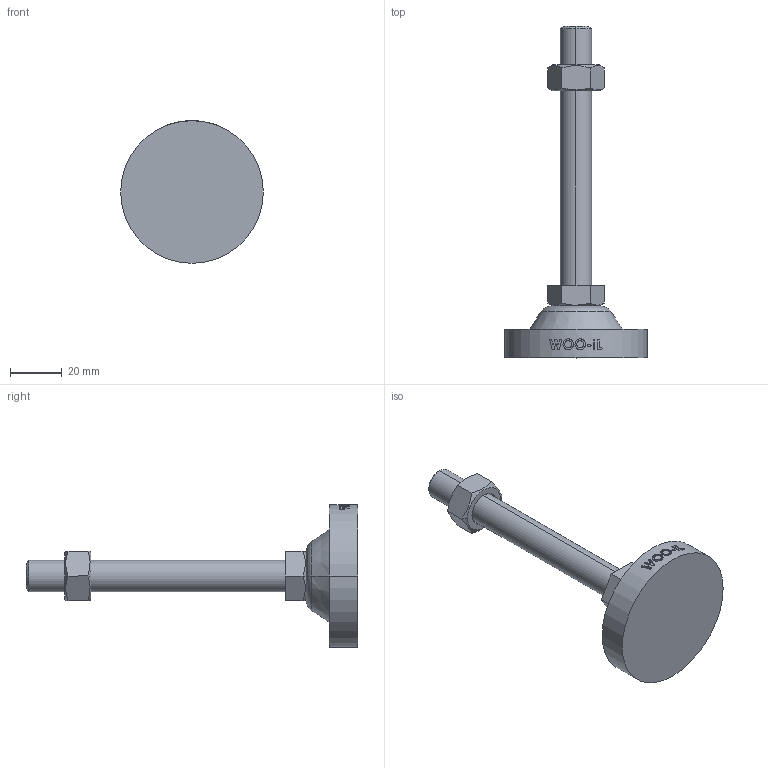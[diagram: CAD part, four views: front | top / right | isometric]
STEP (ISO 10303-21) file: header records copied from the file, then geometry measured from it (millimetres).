
FILE_DESCRIPTION (( 'STEP AP214' ), '1' );
FILE_NAME ('RB55-M12-100.step', '2021-01-18T05:48:55', ( '' ), ( '' ), 'SwSTEP 2.0', 'SolidWorks 2019', '' );
FILE_SCHEMA (( 'AUTOMOTIVE_DESIGN' ));
Length unit declared in the file: millimetre
Products named in the file (2): RB55-M12-100
Bounding box: 55 x 128 x 55 mm (x, y, z)
Volume: 45273.1 mm3; surface area: 14416.9 mm2
Topology: 2 solids, 3 shells, 128 faces, 317 edges, 206 vertices
Faces by surface type: plane 48, cylinder 42, bspline 18, cone 16, torus 4
Entity records: 5349 total; most frequent: CARTESIAN_POINT 2507, ORIENTED_EDGE 634, DIRECTION 479, EDGE_CURVE 317, VERTEX_POINT 206, AXIS2_PLACEMENT_3D 176, EDGE_LOOP 141, FACE_OUTER_BOUND 128
